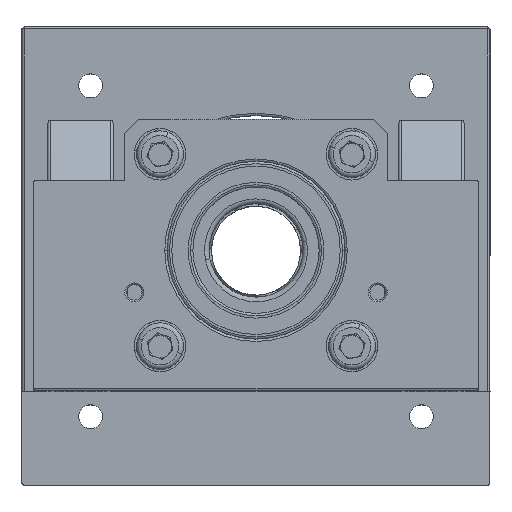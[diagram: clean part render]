
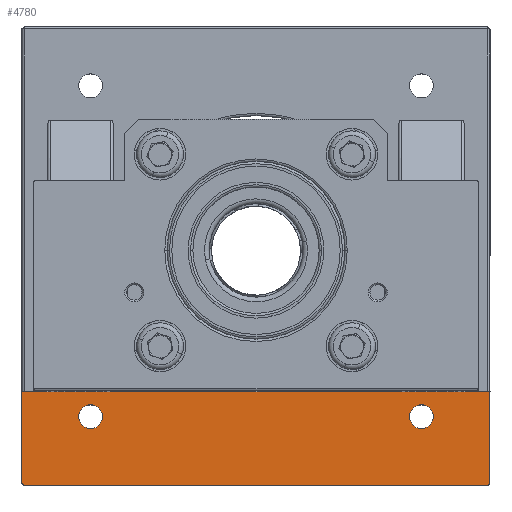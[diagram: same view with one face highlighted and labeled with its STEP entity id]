
A CAD part, top view. The second image highlights one B-rep face of the part: STEP entity #4780.
In plain terms, the highlighted planar face has unit normal (0, 0, 1).
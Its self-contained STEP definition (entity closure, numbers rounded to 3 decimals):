
#197 = ORIENTED_EDGE ( 'NONE', *, *, #1744, .F. ) ;
#370 = CARTESIAN_POINT ( 'NONE',  ( -50., -30., -115. ) ) ;
#474 = DIRECTION ( 'NONE',  ( -1., 0., 0. ) ) ;
#516 = FACE_BOUND ( 'NONE', #9925, .T. ) ;
#537 = DIRECTION ( 'NONE',  ( -1., 0., 0. ) ) ;
#641 = DIRECTION ( 'NONE',  ( 0., 0., 1. ) ) ;
#647 = DIRECTION ( 'NONE',  ( 1., 0., 0. ) ) ;
#687 = CARTESIAN_POINT ( 'NONE',  ( 35.355, -35.355, -115. ) ) ;
#708 = DIRECTION ( 'NONE',  ( 0., 0., 1. ) ) ;
#715 = VECTOR ( 'NONE', #647, 1000. ) ;
#859 = EDGE_CURVE ( 'NONE', #9985, #7612, #9094, .T. ) ;
#960 = ORIENTED_EDGE ( 'NONE', *, *, #8429, .F. ) ;
#1030 = CARTESIAN_POINT ( 'NONE',  ( -49.5, -49.5, -115. ) ) ;
#1080 = CARTESIAN_POINT ( 'NONE',  ( 49.5, -50., -115. ) ) ;
#1149 = CARTESIAN_POINT ( 'NONE',  ( -50., -30., -115. ) ) ;
#1357 = EDGE_LOOP ( 'NONE', ( #10483, #197 ) ) ;
#1438 = EDGE_CURVE ( 'NONE', #10995, #9747, #6035, .T. ) ;
#1744 = EDGE_CURVE ( 'NONE', #10904, #3473, #6475, .T. ) ;
#2161 = CARTESIAN_POINT ( 'NONE',  ( 35.355, -35.355, -115. ) ) ;
#2219 = EDGE_CURVE ( 'NONE', #3027, #7616, #2413, .T. ) ;
#2370 = EDGE_CURVE ( 'NONE', #9046, #7616, #3109, .T. ) ;
#2413 = LINE ( 'NONE', #8710, #4731 ) ;
#2460 = DIRECTION ( 'NONE',  ( -1., 0., 0. ) ) ;
#2542 = DIRECTION ( 'NONE',  ( 0., 0., 1. ) ) ;
#2543 = CARTESIAN_POINT ( 'NONE',  ( 49.5, -49.5, -115. ) ) ;
#2652 = AXIS2_PLACEMENT_3D ( 'NONE', #8553, #3410, #9392 ) ;
#2661 = CARTESIAN_POINT ( 'NONE',  ( 32.805, -35.355, -115. ) ) ;
#2768 = ORIENTED_EDGE ( 'NONE', *, *, #10731, .T. ) ;
#3027 = VERTEX_POINT ( 'NONE', #7795 ) ;
#3068 = DIRECTION ( 'NONE',  ( -1., 0., 0. ) ) ;
#3109 = LINE ( 'NONE', #370, #715 ) ;
#3296 = CARTESIAN_POINT ( 'NONE',  ( 50., -30., -115. ) ) ;
#3354 = AXIS2_PLACEMENT_3D ( 'NONE', #11355, #11253, #11224 ) ;
#3410 = DIRECTION ( 'NONE',  ( 0., 0., 1. ) ) ;
#3461 = AXIS2_PLACEMENT_3D ( 'NONE', #2161, #8237, #3068 ) ;
#3473 = VERTEX_POINT ( 'NONE', #10490 ) ;
#3938 = LINE ( 'NONE', #9420, #8254 ) ;
#4057 = AXIS2_PLACEMENT_3D ( 'NONE', #687, #641, #474 ) ;
#4147 = CARTESIAN_POINT ( 'NONE',  ( -50., -30., -115. ) ) ;
#4483 = AXIS2_PLACEMENT_3D ( 'NONE', #1030, #708, #537 ) ;
#4626 = ORIENTED_EDGE ( 'NONE', *, *, #859, .T. ) ;
#4641 = CIRCLE ( 'NONE', #8878, 0.5 ) ;
#4731 = VECTOR ( 'NONE', #8749, 1000. ) ;
#4780 = ADVANCED_FACE ( 'NONE', ( #7521, #516, #5237 ), #11353, .F. ) ;
#4781 = CIRCLE ( 'NONE', #2652, 2.55 ) ;
#5033 = VECTOR ( 'NONE', #7210, 1000. ) ;
#5154 = CIRCLE ( 'NONE', #3461, 2.55 ) ;
#5213 = EDGE_CURVE ( 'NONE', #7373, #3027, #4641, .T. ) ;
#5237 = FACE_BOUND ( 'NONE', #1357, .T. ) ;
#5307 = LINE ( 'NONE', #1149, #5033 ) ;
#5583 = AXIS2_PLACEMENT_3D ( 'NONE', #10036, #10193, #10145 ) ;
#5767 = CARTESIAN_POINT ( 'NONE',  ( -50., -49.5, -115. ) ) ;
#6035 = CIRCLE ( 'NONE', #4057, 2.55 ) ;
#6475 = CIRCLE ( 'NONE', #5583, 2.55 ) ;
#6478 = EDGE_CURVE ( 'NONE', #9985, #9046, #5307, .T. ) ;
#6545 = EDGE_LOOP ( 'NONE', ( #4626, #2768, #8627, #9593, #8344, #9790 ) ) ;
#7210 = DIRECTION ( 'NONE',  ( 0., 1., 0. ) ) ;
#7373 = VERTEX_POINT ( 'NONE', #1080 ) ;
#7521 = FACE_OUTER_BOUND ( 'NONE', #6545, .T. ) ;
#7612 = VERTEX_POINT ( 'NONE', #9279 ) ;
#7616 = VERTEX_POINT ( 'NONE', #3296 ) ;
#7795 = CARTESIAN_POINT ( 'NONE',  ( 50., -49.5, -115. ) ) ;
#8126 = CARTESIAN_POINT ( 'NONE',  ( -32.805, -35.355, -115. ) ) ;
#8237 = DIRECTION ( 'NONE',  ( 0., 0., 1. ) ) ;
#8254 = VECTOR ( 'NONE', #8630, 1000. ) ;
#8344 = ORIENTED_EDGE ( 'NONE', *, *, #2370, .F. ) ;
#8429 = EDGE_CURVE ( 'NONE', #9747, #10995, #5154, .T. ) ;
#8553 = CARTESIAN_POINT ( 'NONE',  ( -35.355, -35.355, -115. ) ) ;
#8627 = ORIENTED_EDGE ( 'NONE', *, *, #5213, .T. ) ;
#8630 = DIRECTION ( 'NONE',  ( 1., 0., 0. ) ) ;
#8646 = EDGE_CURVE ( 'NONE', #3473, #10904, #4781, .T. ) ;
#8710 = CARTESIAN_POINT ( 'NONE',  ( 50., -30., -115. ) ) ;
#8749 = DIRECTION ( 'NONE',  ( 0., 1., 0. ) ) ;
#8878 = AXIS2_PLACEMENT_3D ( 'NONE', #2543, #2542, #2460 ) ;
#9046 = VERTEX_POINT ( 'NONE', #4147 ) ;
#9094 = CIRCLE ( 'NONE', #4483, 0.5 ) ;
#9279 = CARTESIAN_POINT ( 'NONE',  ( -49.5, -50., -115. ) ) ;
#9392 = DIRECTION ( 'NONE',  ( -1., 0., 0. ) ) ;
#9420 = CARTESIAN_POINT ( 'NONE',  ( -50., -50., -115. ) ) ;
#9585 = ORIENTED_EDGE ( 'NONE', *, *, #1438, .F. ) ;
#9593 = ORIENTED_EDGE ( 'NONE', *, *, #2219, .T. ) ;
#9747 = VERTEX_POINT ( 'NONE', #2661 ) ;
#9790 = ORIENTED_EDGE ( 'NONE', *, *, #6478, .F. ) ;
#9925 = EDGE_LOOP ( 'NONE', ( #960, #9585 ) ) ;
#9985 = VERTEX_POINT ( 'NONE', #5767 ) ;
#10036 = CARTESIAN_POINT ( 'NONE',  ( -35.355, -35.355, -115. ) ) ;
#10145 = DIRECTION ( 'NONE',  ( -1., 0., 0. ) ) ;
#10193 = DIRECTION ( 'NONE',  ( 0., 0., 1. ) ) ;
#10483 = ORIENTED_EDGE ( 'NONE', *, *, #8646, .F. ) ;
#10490 = CARTESIAN_POINT ( 'NONE',  ( -37.905, -35.355, -115. ) ) ;
#10731 = EDGE_CURVE ( 'NONE', #7612, #7373, #3938, .T. ) ;
#10904 = VERTEX_POINT ( 'NONE', #8126 ) ;
#10989 = CARTESIAN_POINT ( 'NONE',  ( 37.905, -35.355, -115. ) ) ;
#10995 = VERTEX_POINT ( 'NONE', #10989 ) ;
#11224 = DIRECTION ( 'NONE',  ( -1., 0., 0. ) ) ;
#11253 = DIRECTION ( 'NONE',  ( 0., 0., -1. ) ) ;
#11353 = PLANE ( 'NONE',  #3354 ) ;
#11355 = CARTESIAN_POINT ( 'NONE',  ( -50., -30., -115. ) ) ;
